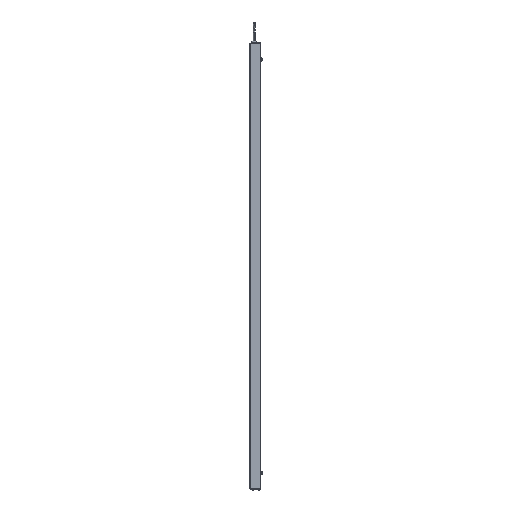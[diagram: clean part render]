
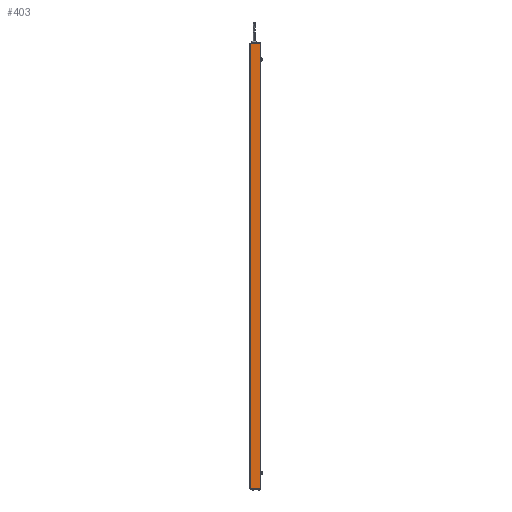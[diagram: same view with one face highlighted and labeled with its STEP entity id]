
A CAD part, left-side view. The second image highlights one B-rep face of the part: STEP entity #403.
In plain terms, the highlighted planar face has unit normal (-1, 0, 0).
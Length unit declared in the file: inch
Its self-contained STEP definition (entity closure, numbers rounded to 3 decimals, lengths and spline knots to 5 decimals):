
#403 = ADVANCED_FACE ( 'NONE', ( #4014 ), #7284, .F. ) ;
#2026 = CARTESIAN_POINT ( 'NONE',  ( -0.665, 0., 24.2175 ) ) ;
#2931 = DIRECTION ( 'NONE',  ( 0., 0., -1. ) ) ;
#4014 = FACE_OUTER_BOUND ( 'NONE', #11835, .T. ) ;
#5442 = VECTOR ( 'NONE', #6658, 39.37008 ) ;
#5791 = DIRECTION ( 'NONE',  ( 1., 0., 0. ) ) ;
#6201 = CARTESIAN_POINT ( 'NONE',  ( -0.665, 0.015, 24.2175 ) ) ;
#6658 = DIRECTION ( 'NONE',  ( 0., -1., 0. ) ) ;
#7284 = PLANE ( 'NONE',  #17547 ) ;
#7682 = EDGE_CURVE ( 'NONE', #17183, #9287, #9151, .T. ) ;
#8067 = VECTOR ( 'NONE', #13742, 39.37008 ) ;
#8274 = VECTOR ( 'NONE', #18745, 39.37008 ) ;
#8306 = ORIENTED_EDGE ( 'NONE', *, *, #16855, .T. ) ;
#8480 = VERTEX_POINT ( 'NONE', #18625 ) ;
#8734 = CARTESIAN_POINT ( 'NONE',  ( -0.665, 0., 24.2175 ) ) ;
#9151 = LINE ( 'NONE', #11510, #8274 ) ;
#9287 = VERTEX_POINT ( 'NONE', #6201 ) ;
#10264 = ORIENTED_EDGE ( 'NONE', *, *, #7682, .T. ) ;
#10987 = CARTESIAN_POINT ( 'NONE',  ( -0.665, 0., -24.2175 ) ) ;
#11463 = EDGE_CURVE ( 'NONE', #8480, #9287, #16989, .T. ) ;
#11510 = CARTESIAN_POINT ( 'NONE',  ( -0.665, 0.015, 24.2175 ) ) ;
#11835 = EDGE_LOOP ( 'NONE', ( #18562, #15999, #8306, #10264 ) ) ;
#12007 = VERTEX_POINT ( 'NONE', #18462 ) ;
#13570 = CARTESIAN_POINT ( 'NONE',  ( -0.665, 0.015, -24.2175 ) ) ;
#13609 = VECTOR ( 'NONE', #17210, 39.37008 ) ;
#13742 = DIRECTION ( 'NONE',  ( 0., -1., 0. ) ) ;
#14984 = LINE ( 'NONE', #18408, #13609 ) ;
#15999 = ORIENTED_EDGE ( 'NONE', *, *, #16166, .T. ) ;
#16166 = EDGE_CURVE ( 'NONE', #8480, #12007, #14984, .T. ) ;
#16855 = EDGE_CURVE ( 'NONE', #12007, #17183, #18153, .T. ) ;
#16989 = LINE ( 'NONE', #2026, #8067 ) ;
#17183 = VERTEX_POINT ( 'NONE', #13570 ) ;
#17210 = DIRECTION ( 'NONE',  ( 0., 0., -1. ) ) ;
#17547 = AXIS2_PLACEMENT_3D ( 'NONE', #8734, #5791, #2931 ) ;
#18153 = LINE ( 'NONE', #10987, #5442 ) ;
#18408 = CARTESIAN_POINT ( 'NONE',  ( -0.665, 1.105, 24.2175 ) ) ;
#18462 = CARTESIAN_POINT ( 'NONE',  ( -0.665, 1.105, -24.2175 ) ) ;
#18562 = ORIENTED_EDGE ( 'NONE', *, *, #11463, .F. ) ;
#18625 = CARTESIAN_POINT ( 'NONE',  ( -0.665, 1.105, 24.2175 ) ) ;
#18745 = DIRECTION ( 'NONE',  ( 0., 0., 1. ) ) ;
